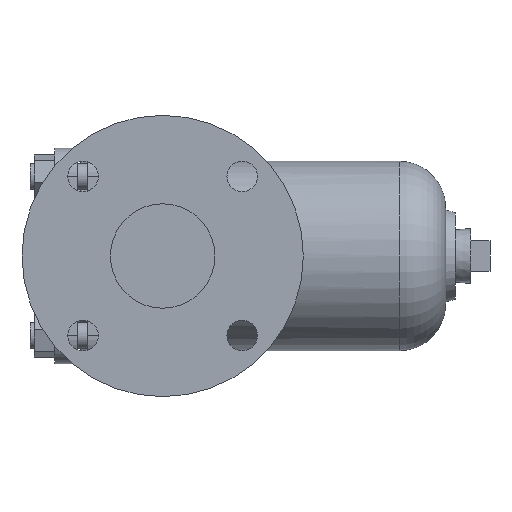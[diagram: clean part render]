
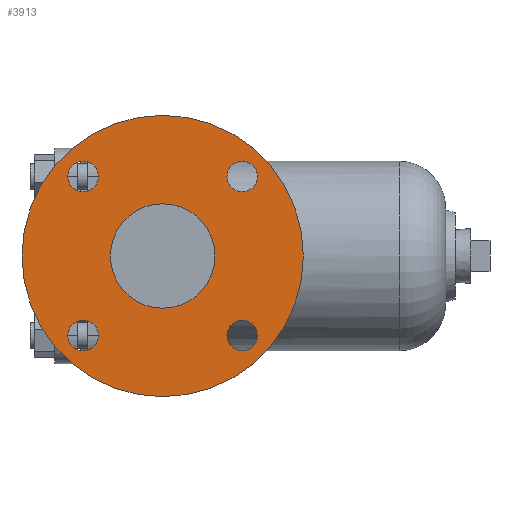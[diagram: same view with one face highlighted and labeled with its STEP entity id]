
A CAD part, left-side view. The second image highlights one B-rep face of the part: STEP entity #3913.
In plain terms, the highlighted planar face has unit normal (-1, 0, 0).
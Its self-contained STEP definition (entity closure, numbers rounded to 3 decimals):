
#8 = VERTEX_POINT ( 'NONE', #4835 ) ;
#40 = CIRCLE ( 'NONE', #990, 9.5 ) ;
#45 = AXIS2_PLACEMENT_3D ( 'NONE', #1863, #2170, #710 ) ;
#73 = VERTEX_POINT ( 'NONE', #6673 ) ;
#177 = EDGE_CURVE ( 'NONE', #675, #4163, #844, .T. ) ;
#211 = DIRECTION ( 'NONE',  ( 0., 1., 0. ) ) ;
#264 = CARTESIAN_POINT ( 'NONE',  ( -115., 49.497, -39.997 ) ) ;
#282 = CIRCLE ( 'NONE', #4314, 9.5 ) ;
#296 = DIRECTION ( 'NONE',  ( 0., 0., 1. ) ) ;
#318 = CARTESIAN_POINT ( 'NONE',  ( -115., 0., 87.5 ) ) ;
#344 = ORIENTED_EDGE ( 'NONE', *, *, #6838, .F. ) ;
#466 = DIRECTION ( 'NONE',  ( -1., 0., 0. ) ) ;
#483 = EDGE_LOOP ( 'NONE', ( #5135, #4084 ) ) ;
#504 = DIRECTION ( 'NONE',  ( 0., 0., 1. ) ) ;
#511 = VERTEX_POINT ( 'NONE', #6557 ) ;
#547 = CARTESIAN_POINT ( 'NONE',  ( -115., 0., 32.5 ) ) ;
#563 = AXIS2_PLACEMENT_3D ( 'NONE', #969, #6718, #7304 ) ;
#576 = VERTEX_POINT ( 'NONE', #1579 ) ;
#628 = DIRECTION ( 'NONE',  ( 0., 1., 0. ) ) ;
#664 = AXIS2_PLACEMENT_3D ( 'NONE', #1585, #6709, #7219 ) ;
#675 = VERTEX_POINT ( 'NONE', #7321 ) ;
#680 = CARTESIAN_POINT ( 'NONE',  ( -115., -49.497, 49.497 ) ) ;
#710 = DIRECTION ( 'NONE',  ( 0., 0., 1. ) ) ;
#777 = CIRCLE ( 'NONE', #1603, 9.5 ) ;
#835 = EDGE_CURVE ( 'NONE', #8, #4422, #2619, .T. ) ;
#844 = CIRCLE ( 'NONE', #6402, 9.5 ) ;
#856 = CARTESIAN_POINT ( 'NONE',  ( -115., 0., 0. ) ) ;
#861 = EDGE_CURVE ( 'NONE', #4163, #675, #3334, .T. ) ;
#969 = CARTESIAN_POINT ( 'NONE',  ( -115., 0., 0. ) ) ;
#990 = AXIS2_PLACEMENT_3D ( 'NONE', #2178, #1620, #504 ) ;
#1113 = CIRCLE ( 'NONE', #6558, 32.5 ) ;
#1141 = ORIENTED_EDGE ( 'NONE', *, *, #1208, .F. ) ;
#1164 = ORIENTED_EDGE ( 'NONE', *, *, #2675, .T. ) ;
#1208 = EDGE_CURVE ( 'NONE', #576, #73, #5853, .T. ) ;
#1285 = EDGE_CURVE ( 'NONE', #3934, #6844, #2309, .T. ) ;
#1509 = DIRECTION ( 'NONE',  ( -1., 0., 0. ) ) ;
#1558 = FACE_OUTER_BOUND ( 'NONE', #3647, .T. ) ;
#1566 = DIRECTION ( 'NONE',  ( 0., 0., 1. ) ) ;
#1579 = CARTESIAN_POINT ( 'NONE',  ( -115., -49.497, 58.997 ) ) ;
#1585 = CARTESIAN_POINT ( 'NONE',  ( -115., 49.497, 49.497 ) ) ;
#1603 = AXIS2_PLACEMENT_3D ( 'NONE', #1938, #4755, #1985 ) ;
#1614 = DIRECTION ( 'NONE',  ( 0., 0., -1. ) ) ;
#1620 = DIRECTION ( 'NONE',  ( -1., 0., 0. ) ) ;
#1635 = CARTESIAN_POINT ( 'NONE',  ( -115., 0., -32.5 ) ) ;
#1863 = CARTESIAN_POINT ( 'NONE',  ( -115., 0., 0. ) ) ;
#1938 = CARTESIAN_POINT ( 'NONE',  ( -115., -49.497, 49.497 ) ) ;
#1985 = DIRECTION ( 'NONE',  ( 0., 0., -1. ) ) ;
#1995 = CARTESIAN_POINT ( 'NONE',  ( -115., 49.497, 39.997 ) ) ;
#2054 = EDGE_CURVE ( 'NONE', #4173, #2464, #282, .T. ) ;
#2057 = ORIENTED_EDGE ( 'NONE', *, *, #2764, .F. ) ;
#2147 = CARTESIAN_POINT ( 'NONE',  ( -115., 49.497, -58.997 ) ) ;
#2156 = FACE_BOUND ( 'NONE', #483, .T. ) ;
#2170 = DIRECTION ( 'NONE',  ( -1., 0., 0. ) ) ;
#2178 = CARTESIAN_POINT ( 'NONE',  ( -115., 49.497, -49.497 ) ) ;
#2264 = FACE_BOUND ( 'NONE', #4692, .T. ) ;
#2309 = CIRCLE ( 'NONE', #45, 32.5 ) ;
#2349 = EDGE_CURVE ( 'NONE', #73, #576, #777, .T. ) ;
#2464 = VERTEX_POINT ( 'NONE', #264 ) ;
#2519 = EDGE_LOOP ( 'NONE', ( #344, #4887 ) ) ;
#2619 = CIRCLE ( 'NONE', #3566, 87.5 ) ;
#2675 = EDGE_CURVE ( 'NONE', #4422, #8, #5276, .T. ) ;
#2723 = ORIENTED_EDGE ( 'NONE', *, *, #2349, .F. ) ;
#2744 = AXIS2_PLACEMENT_3D ( 'NONE', #4704, #4220, #211 ) ;
#2764 = EDGE_CURVE ( 'NONE', #511, #4352, #3858, .T. ) ;
#3077 = EDGE_LOOP ( 'NONE', ( #4461, #3097 ) ) ;
#3097 = ORIENTED_EDGE ( 'NONE', *, *, #1285, .F. ) ;
#3114 = DIRECTION ( 'NONE',  ( -1., 0., 0. ) ) ;
#3334 = CIRCLE ( 'NONE', #2744, 9.5 ) ;
#3355 = DIRECTION ( 'NONE',  ( -1., 0., 0. ) ) ;
#3439 = ORIENTED_EDGE ( 'NONE', *, *, #5797, .F. ) ;
#3566 = AXIS2_PLACEMENT_3D ( 'NONE', #6696, #3355, #5620 ) ;
#3647 = EDGE_LOOP ( 'NONE', ( #1164, #4288 ) ) ;
#3858 = CIRCLE ( 'NONE', #664, 9.5 ) ;
#3872 = CARTESIAN_POINT ( 'NONE',  ( -115., 49.497, -49.497 ) ) ;
#3913 = ADVANCED_FACE ( 'NONE', ( #2156, #2264, #5642, #6639, #4451, #1558 ), #6048, .F. ) ;
#3934 = VERTEX_POINT ( 'NONE', #1635 ) ;
#3961 = AXIS2_PLACEMENT_3D ( 'NONE', #5586, #1509, #6661 ) ;
#4084 = ORIENTED_EDGE ( 'NONE', *, *, #861, .F. ) ;
#4163 = VERTEX_POINT ( 'NONE', #7116 ) ;
#4173 = VERTEX_POINT ( 'NONE', #2147 ) ;
#4220 = DIRECTION ( 'NONE',  ( -1., 0., 0. ) ) ;
#4288 = ORIENTED_EDGE ( 'NONE', *, *, #835, .T. ) ;
#4314 = AXIS2_PLACEMENT_3D ( 'NONE', #3872, #6727, #1566 ) ;
#4352 = VERTEX_POINT ( 'NONE', #1995 ) ;
#4422 = VERTEX_POINT ( 'NONE', #318 ) ;
#4451 = FACE_BOUND ( 'NONE', #3077, .T. ) ;
#4461 = ORIENTED_EDGE ( 'NONE', *, *, #6829, .F. ) ;
#4667 = AXIS2_PLACEMENT_3D ( 'NONE', #680, #5021, #1614 ) ;
#4692 = EDGE_LOOP ( 'NONE', ( #1141, #2723 ) ) ;
#4704 = CARTESIAN_POINT ( 'NONE',  ( -115., -49.497, -49.497 ) ) ;
#4755 = DIRECTION ( 'NONE',  ( -1., 0., 0. ) ) ;
#4835 = CARTESIAN_POINT ( 'NONE',  ( -115., 0., -87.5 ) ) ;
#4887 = ORIENTED_EDGE ( 'NONE', *, *, #2054, .F. ) ;
#4958 = EDGE_LOOP ( 'NONE', ( #2057, #3439 ) ) ;
#5021 = DIRECTION ( 'NONE',  ( -1., 0., 0. ) ) ;
#5135 = ORIENTED_EDGE ( 'NONE', *, *, #177, .F. ) ;
#5276 = CIRCLE ( 'NONE', #5512, 87.5 ) ;
#5512 = AXIS2_PLACEMENT_3D ( 'NONE', #856, #3114, #296 ) ;
#5550 = CARTESIAN_POINT ( 'NONE',  ( -115., 0., 0. ) ) ;
#5586 = CARTESIAN_POINT ( 'NONE',  ( -115., 49.497, 49.497 ) ) ;
#5620 = DIRECTION ( 'NONE',  ( 0., 0., 1. ) ) ;
#5642 = FACE_BOUND ( 'NONE', #4958, .T. ) ;
#5711 = DIRECTION ( 'NONE',  ( -1., 0., 0. ) ) ;
#5797 = EDGE_CURVE ( 'NONE', #4352, #511, #7157, .T. ) ;
#5853 = CIRCLE ( 'NONE', #4667, 9.5 ) ;
#6048 = PLANE ( 'NONE',  #563 ) ;
#6402 = AXIS2_PLACEMENT_3D ( 'NONE', #7259, #5711, #628 ) ;
#6557 = CARTESIAN_POINT ( 'NONE',  ( -115., 49.497, 58.997 ) ) ;
#6558 = AXIS2_PLACEMENT_3D ( 'NONE', #5550, #466, #7248 ) ;
#6639 = FACE_BOUND ( 'NONE', #2519, .T. ) ;
#6661 = DIRECTION ( 'NONE',  ( 0., -1., 0. ) ) ;
#6673 = CARTESIAN_POINT ( 'NONE',  ( -115., -49.497, 39.997 ) ) ;
#6696 = CARTESIAN_POINT ( 'NONE',  ( -115., 0., 0. ) ) ;
#6709 = DIRECTION ( 'NONE',  ( -1., 0., 0. ) ) ;
#6718 = DIRECTION ( 'NONE',  ( 1., 0., 0. ) ) ;
#6727 = DIRECTION ( 'NONE',  ( -1., 0., 0. ) ) ;
#6829 = EDGE_CURVE ( 'NONE', #6844, #3934, #1113, .T. ) ;
#6838 = EDGE_CURVE ( 'NONE', #2464, #4173, #40, .T. ) ;
#6844 = VERTEX_POINT ( 'NONE', #547 ) ;
#7116 = CARTESIAN_POINT ( 'NONE',  ( -115., -49.497, -58.997 ) ) ;
#7157 = CIRCLE ( 'NONE', #3961, 9.5 ) ;
#7219 = DIRECTION ( 'NONE',  ( 0., -1., 0. ) ) ;
#7248 = DIRECTION ( 'NONE',  ( 0., 0., 1. ) ) ;
#7259 = CARTESIAN_POINT ( 'NONE',  ( -115., -49.497, -49.497 ) ) ;
#7304 = DIRECTION ( 'NONE',  ( 0., 0., -1. ) ) ;
#7321 = CARTESIAN_POINT ( 'NONE',  ( -115., -49.497, -39.997 ) ) ;
